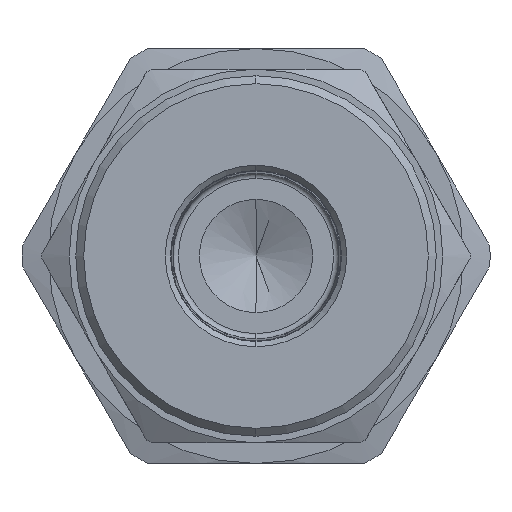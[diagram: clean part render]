
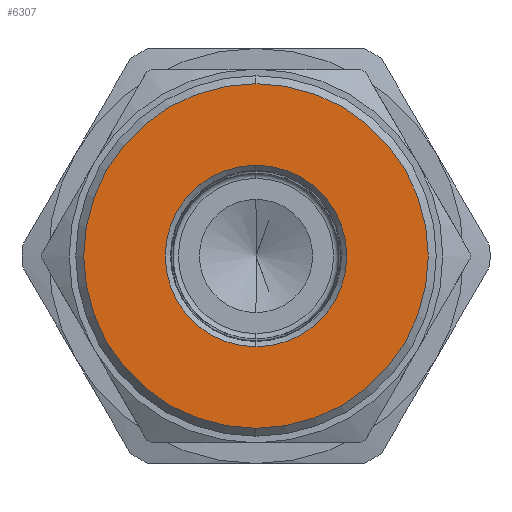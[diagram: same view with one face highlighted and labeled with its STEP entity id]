
A CAD part, left-side view. The second image highlights one B-rep face of the part: STEP entity #6307.
In plain terms, the highlighted planar face has unit normal (-1, 0, 0).
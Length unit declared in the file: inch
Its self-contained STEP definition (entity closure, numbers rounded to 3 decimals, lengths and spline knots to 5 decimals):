
#1576 = CARTESIAN_POINT ( 'NONE',  ( -0.2885, 0., 0. ) ) ;
#1577 = DIRECTION ( 'NONE',  ( 1., 0., 0. ) ) ;
#1578 = DIRECTION ( 'NONE',  ( 0., 0., -1. ) ) ;
#1588 = CARTESIAN_POINT ( 'NONE',  ( -0.2885, 0., 0. ) ) ;
#1589 = DIRECTION ( 'NONE',  ( -1., 0., 0. ) ) ;
#1590 = DIRECTION ( 'NONE',  ( 0., 0., -1. ) ) ;
#6069 = ORIENTED_EDGE ( 'NONE', *, *, #6843, .T. ) ;
#6073 = ORIENTED_EDGE ( 'NONE', *, *, #6846, .T. ) ;
#6074 = ORIENTED_EDGE ( 'NONE', *, *, #7010, .T. ) ;
#6081 = ORIENTED_EDGE ( 'NONE', *, *, #7018, .T. ) ;
#6307 = ADVANCED_FACE ( 'NONE', ( #14829, #14830 ), #14831, .F. ) ;
#6843 = EDGE_CURVE ( 'NONE', #11042, #11043, #7850, .T. ) ;
#6846 = EDGE_CURVE ( 'NONE', #11034, #11036, #7896, .T. ) ;
#7010 = EDGE_CURVE ( 'NONE', #11036, #11034, #7519, .T. ) ;
#7018 = EDGE_CURVE ( 'NONE', #11043, #11042, #7788, .T. ) ;
#7519 = CIRCLE ( 'NONE', #7521, 0.2595 ) ;
#7521 = AXIS2_PLACEMENT_3D ( 'NONE', #12583, #12584, #12585 ) ;
#7746 = AXIS2_PLACEMENT_3D ( 'NONE', #1576, #1577, #1578 ) ;
#7788 = CIRCLE ( 'NONE', #7922, 0.13675 ) ;
#7850 = CIRCLE ( 'NONE', #7746, 0.13675 ) ;
#7855 = AXIS2_PLACEMENT_3D ( 'NONE', #1588, #1589, #1590 ) ;
#7896 = CIRCLE ( 'NONE', #7855, 0.2595 ) ;
#7922 = AXIS2_PLACEMENT_3D ( 'NONE', #12607, #12608, #12609 ) ;
#7978 = AXIS2_PLACEMENT_3D ( 'NONE', #14826, #14833, #14834 ) ;
#10886 = EDGE_LOOP ( 'NONE', ( #6074, #6073 ) ) ;
#10906 = EDGE_LOOP ( 'NONE', ( #6069, #6081 ) ) ;
#11034 = VERTEX_POINT ( 'NONE', #15782 ) ;
#11036 = VERTEX_POINT ( 'NONE', #15784 ) ;
#11042 = VERTEX_POINT ( 'NONE', #15790 ) ;
#11043 = VERTEX_POINT ( 'NONE', #15791 ) ;
#12583 = CARTESIAN_POINT ( 'NONE',  ( -0.2885, 0., 0. ) ) ;
#12584 = DIRECTION ( 'NONE',  ( -1., 0., 0. ) ) ;
#12585 = DIRECTION ( 'NONE',  ( 0., 0., -1. ) ) ;
#12607 = CARTESIAN_POINT ( 'NONE',  ( -0.2885, 0., 0. ) ) ;
#12608 = DIRECTION ( 'NONE',  ( 1., 0., 0. ) ) ;
#12609 = DIRECTION ( 'NONE',  ( 0., 0., -1. ) ) ;
#14826 = CARTESIAN_POINT ( 'NONE',  ( -0.2885, 0.32476, 0. ) ) ;
#14829 = FACE_BOUND ( 'NONE', #10906, .T. ) ;
#14830 = FACE_OUTER_BOUND ( 'NONE', #10886, .T. ) ;
#14831 = PLANE ( 'NONE',  #7978 ) ;
#14833 = DIRECTION ( 'NONE',  ( 1., 0., 0. ) ) ;
#14834 = DIRECTION ( 'NONE',  ( 0., 0., -1. ) ) ;
#15782 = CARTESIAN_POINT ( 'NONE',  ( -0.2885, 0., 0.2595 ) ) ;
#15784 = CARTESIAN_POINT ( 'NONE',  ( -0.2885, 0., -0.2595 ) ) ;
#15790 = CARTESIAN_POINT ( 'NONE',  ( -0.2885, 0., 0.13675 ) ) ;
#15791 = CARTESIAN_POINT ( 'NONE',  ( -0.2885, 0., -0.13675 ) ) ;
